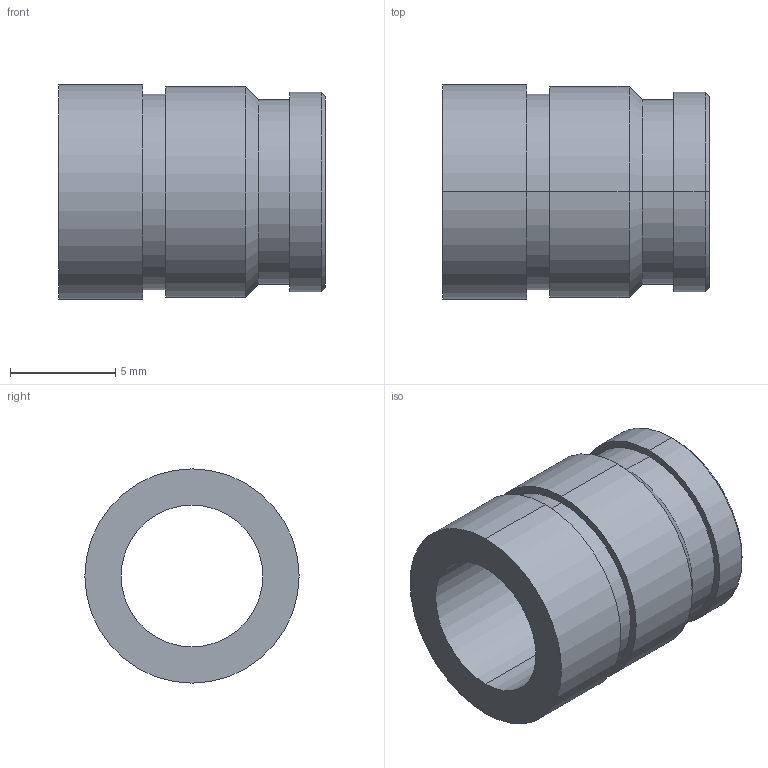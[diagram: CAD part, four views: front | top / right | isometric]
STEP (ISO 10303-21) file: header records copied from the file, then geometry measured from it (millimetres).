
FILE_DESCRIPTION (( 'STEP AP203' ), '1' );
FILE_NAME ('FSUK-HIS-M08-S.STEP', '2021-04-15T08:45:43', ( '' ), ( '' ), 'SwSTEP 2.0', 'SolidWorks 2021', '' );
FILE_SCHEMA (( 'CONFIG_CONTROL_DESIGN' ));
Length unit declared in the file: millimetre
Products named in the file (1): FSUK-HIS-M08-S
Bounding box: 12.7 x 10.2 x 10.2 mm (x, y, z)
Volume: 497.3 mm3; surface area: 772.9 mm2
Topology: 1 solids, 1 shells, 23 faces, 46 edges, 28 vertices
Faces by surface type: cylinder 12, cone 6, plane 5
Entity records: 685 total; most frequent: DIRECTION 122, CARTESIAN_POINT 98, ORIENTED_EDGE 92, AXIS2_PLACEMENT_3D 52, EDGE_CURVE 46, VERTEX_POINT 28, CIRCLE 28, EDGE_LOOP 28
